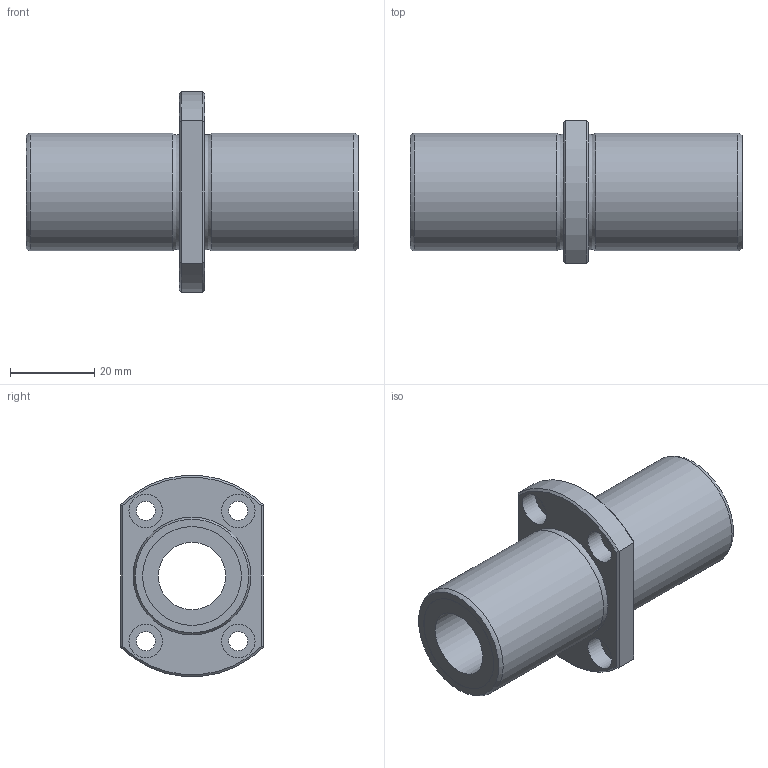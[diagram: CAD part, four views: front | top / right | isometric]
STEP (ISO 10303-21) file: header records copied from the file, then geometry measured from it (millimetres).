
FILE_DESCRIPTION((''),'2;1');
FILE_NAME('D:\製品 (図面)\カタログ用3D\メンテナンスフリー関連\STEP形式\LFDTC-MF\LFDTC16MF.stp','2010-06-01T15:48:10',('Tsuchiya'),(''),'Autodesk Inventor 10','Autodesk Inventor 10','');
FILE_SCHEMA(('AUTOMOTIVE_DESIGN { 1 0 10303 214 1 1 1 1 }'));
Length unit declared in the file: millimetre
Products named in the file (1): LFDTC16MF
Bounding box: 79 x 34 x 47.82 mm (x, y, z)
Volume: 36779.3 mm3; surface area: 14124.6 mm2
Topology: 1 solids, 1 shells, 39 faces, 75 edges, 46 vertices
Faces by surface type: plane 16, cylinder 15, cone 4, torus 2, bspline 2
Full cylindrical faces by diameter (mm): 4.5 x4, 8 x4, 16 x1, 23.5 x2, 28 x2
Entity records: 1073 total; most frequent: CARTESIAN_POINT 292, DIRECTION 164, ORIENTED_EDGE 116, AXIS2_PLACEMENT_3D 76, EDGE_LOOP 74, EDGE_CURVE 58, VERTEX_POINT 46, FACE_OUTER_BOUND 39
